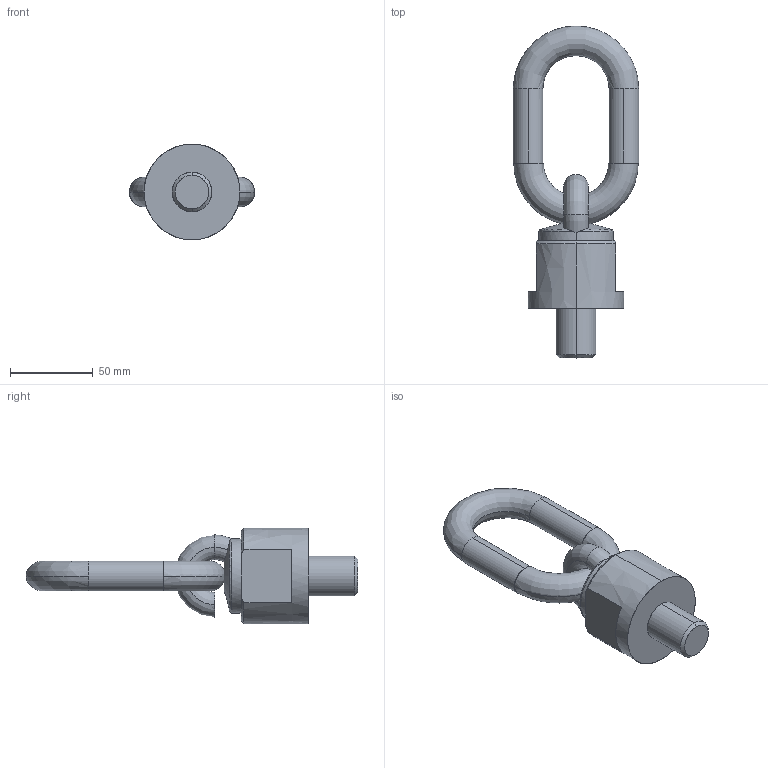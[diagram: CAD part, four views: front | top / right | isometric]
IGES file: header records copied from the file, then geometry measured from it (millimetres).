
Start section: START RECORD GO HERE.
Global section: file name: C8000302430.igs; native system: DASSAULT SYSTEMES CATIA V5 R20 - www.3ds.com; preprocessor: CATIA Version 5 Release 20 ; author: Utente; organization: NB04-ASUS; date: 20200412.161531; units: millimetre
Bounding box: 76 x 201 x 58 mm (x, y, z)
Surface area: 32954.8 mm2 (no closed solid volume)
Topology: 0 solids, 0 shells, 42 faces, 225 edges, 225 vertices
Faces by surface type: revolution 30, extrusion 12
